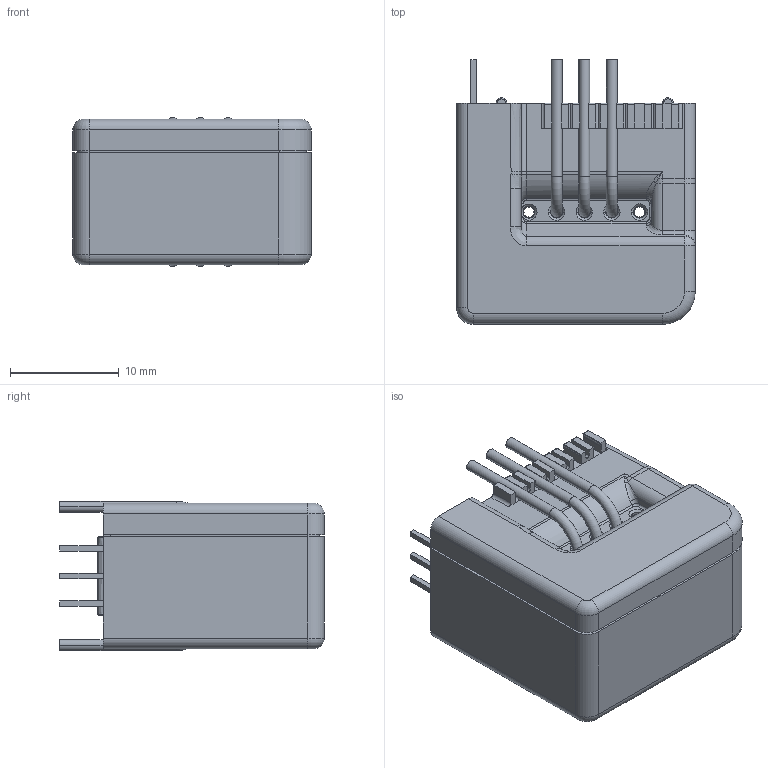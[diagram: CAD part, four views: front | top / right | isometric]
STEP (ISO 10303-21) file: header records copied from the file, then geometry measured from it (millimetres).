
FILE_DESCRIPTION(('Creo Elements/Direct Modeling STEP Export'),'2;1');
FILE_NAME('LES.stp','2017-03-23T 9:30:42',(''),(''),'PTC Creo Elements/Direct Modeling STEP processor for AP214 (Solid Model)','PTC Creo Elements/Direct Modeling 19.0B 21-Mar-2015 (C) Parametric Technology GmbH','');
FILE_SCHEMA(('AUTOMOTIVE_DESIGN { 1 0 10303 214 1 1 1 1 }'));
Length unit declared in the file: millimetre
Products named in the file (2): BBox_Outline_D
Assembly tree (1 placements, depth 2):
  BBox_Outline_D
    BBox_Outline_D
Bounding box: 21.92 x 24.3 x 13.7 mm (x, y, z)
Volume: 5423.8 mm3; surface area: 2663 mm2
Topology: 1 solids, 1 shells, 651 faces, 1822 edges, 1171 vertices
Faces by surface type: plane 356, cylinder 189, bspline 39, torus 31, cone 28, sphere 4, extrusion 4
Entity records: 33363 total; most frequent: CARTESIAN_POINT 17534, ORIENTED_EDGE 3640, DIRECTION 2816, EDGE_CURVE 1816, VERTEX_POINT 1171, VECTOR 1118, LINE 1114, AXIS2_PLACEMENT_3D 849
